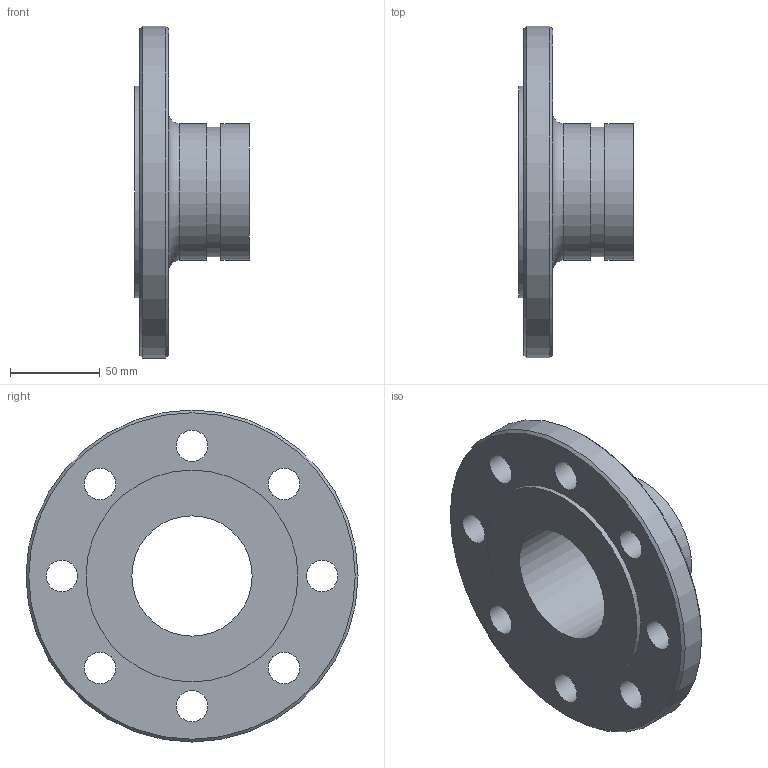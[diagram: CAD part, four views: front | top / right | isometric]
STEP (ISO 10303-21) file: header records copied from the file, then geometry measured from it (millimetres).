
FILE_DESCRIPTION(/* description */ ('VIC FLG ADPTR NIP PN10 RF No 45RE (OGSxFLG)'),/* implementation_level */ '2;1');
FILE_NAME(/* name */ 'C:\Users\vjadhav\OneDrive - Victaulic Company\Desktop\New folder\Victaulic_IPS_Flgd Adptr Nip_PN10 RF_No 45RE (OGSxFLG)\Victaulic_IPS_Flgd Adptr Nip_PN10 RF_No 45RE (OGSxFLG)_02.5 (76.1) (65).stp',/* time_stamp */ '2024-04-01T13:02:09+02:00',/* author */ ('jheald'),/* organization */ ('Victaulic'),/* preprocessor_version */ 'ST-DEVELOPER v18.1',/* originating_system */ 'Autodesk Inventor 2020',/* authorisation */ '');
FILE_SCHEMA (('AUTOMOTIVE_DESIGN { 1 0 10303 214 3 1 1 }'));
Length unit declared in the file: inch
Products named in the file (1): 045RE-02.5 (76.1)
Bounding box: 64.01 x 184.99 x 184.99 mm (x, y, z)
Volume: 408176.2 mm3; surface area: 83715 mm2
Topology: 1 solids, 1 shells, 23 faces, 62 edges, 45 vertices
Faces by surface type: cylinder 14, plane 6, cone 2, torus 1
Full cylindrical faces by diameter (mm): 17.526 x8, 67.056 x1, 72.263 x1, 76.2 x2, 118.008 x1, 184.988 x1
Entity records: 872 total; most frequent: DIRECTION 156, CARTESIAN_POINT 131, ORIENTED_EDGE 124, AXIS2_PLACEMENT_3D 70, EDGE_CURVE 62, CIRCLE 46, EDGE_LOOP 45, VERTEX_POINT 45
